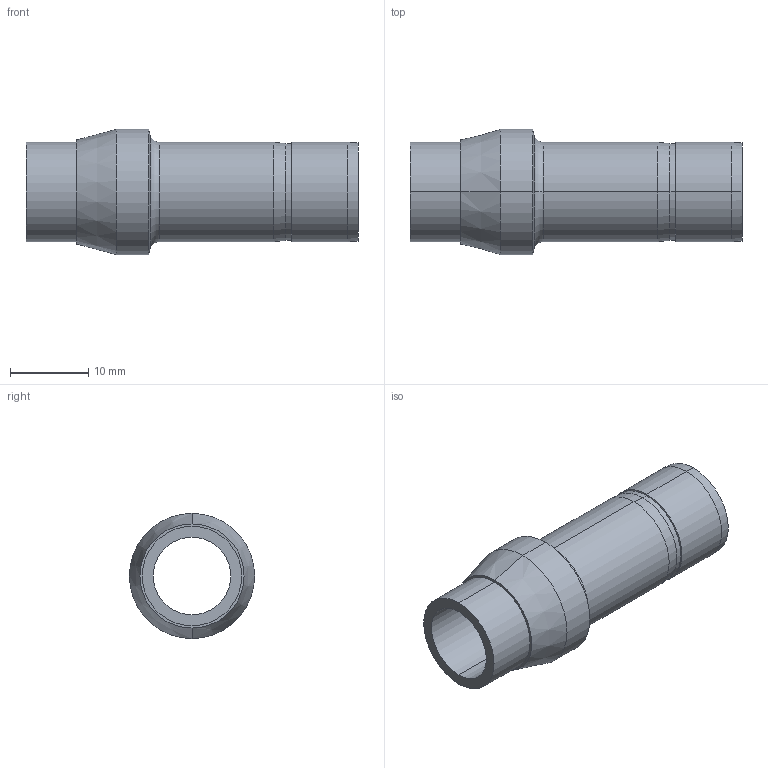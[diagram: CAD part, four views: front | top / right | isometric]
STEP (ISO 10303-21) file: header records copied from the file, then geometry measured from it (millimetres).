
FILE_DESCRIPTION (( 'STEP AP203' ), '1' );
FILE_NAME ('DPC08-08 SS.STEP', '2009-09-08T08:33:36', ( ' ' ), ( '' ), 'SwSTEP 2.0', 'SolidWorks 2008', '' );
FILE_SCHEMA (( 'CONFIG_CONTROL_DESIGN' ));
Length unit declared in the file: millimetre
Products named in the file (1): DPC08-08 SS
Bounding box: 42.4 x 16 x 16 mm (x, y, z)
Volume: 2637.5 mm3; surface area: 3252.8 mm2
Topology: 1 solids, 1 shells, 27 faces, 54 edges, 30 vertices
Faces by surface type: cylinder 12, cone 10, plane 3, torus 2
Entity records: 777 total; most frequent: DIRECTION 142, CARTESIAN_POINT 112, ORIENTED_EDGE 108, AXIS2_PLACEMENT_3D 60, EDGE_CURVE 54, CIRCLE 32, EDGE_LOOP 30, VERTEX_POINT 30
